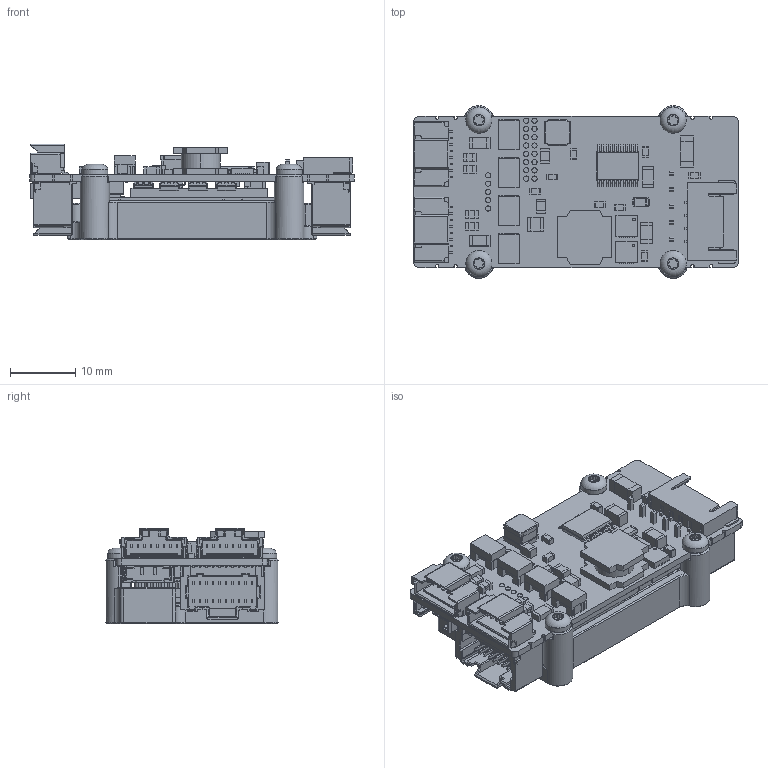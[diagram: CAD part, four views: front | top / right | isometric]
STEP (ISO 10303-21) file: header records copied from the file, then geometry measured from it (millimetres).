
FILE_DESCRIPTION (( 'STEP AP214' ), '1' );
FILE_NAME ('DEN-XCR-X.STEP', '2023-05-19T10:51:50', ( '' ), ( '' ), 'SwSTEP 2.0', 'SolidWorks 2022', '' );
FILE_SCHEMA (( 'AUTOMOTIVE_DESIGN' ));
Length unit declared in the file: millimetre
Products named in the file (1): DEN-XCR-X
Bounding box: 49.8 x 26.5 x 14.72 mm (x, y, z)
Surface area: 11708.3 mm2 (no closed solid volume)
Topology: 0 solids, 44 shells, 6157 faces, 16387 edges, 10231 vertices
Faces by surface type: plane 4950, cylinder 947, cone 96, sphere 92, bspline 60, torus 12
Full cylindrical faces by diameter (mm): 0.3 x6, 0.4 x2, 0.8 x21, 1 x1, 1.6 x4, 2 x4, 4 x4
Entity records: 259074 total; most frequent: CARTESIAN_POINT 38607, ORIENTED_EDGE 32400, DIRECTION 29852, EDGE_CURVE 16240, LINE 14148, VECTOR 14148, VERTEX_POINT 10199, AXIS2_PLACEMENT_3D 7852
